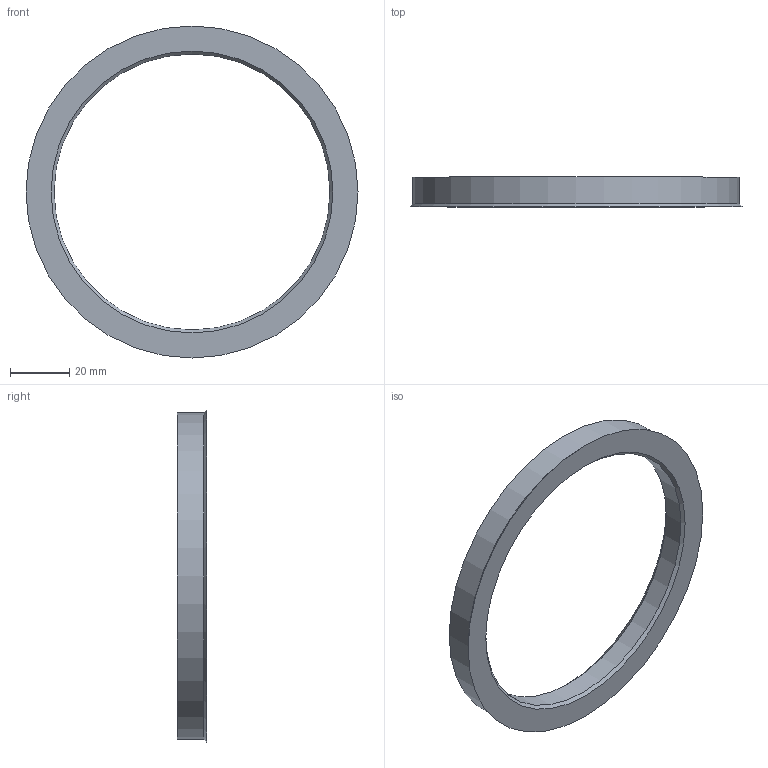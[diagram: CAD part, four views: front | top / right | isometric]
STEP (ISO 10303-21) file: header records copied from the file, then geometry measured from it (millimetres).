
FILE_DESCRIPTION(/* description */ (''),/* implementation_level */ '2;1');
FILE_NAME(/* name */ 'G:\CAD Library\Team Tasks\DIPP\11th Intake\Bradley Coles\Design Drafting\Random\Hub Rings\ipt\HubRing_110-93.1.stp',/* time_stamp */ '2025-07-22T13:40:53+08:00',/* author */ ('BCOLES'),/* organization */ (''),/* preprocessor_version */ 'ST-DEVELOPER v18.1',/* originating_system */ 'Autodesk Inventor 2022',/* authorisation */ '');
FILE_SCHEMA (('AUTOMOTIVE_DESIGN { 1 0 10303 214 3 1 1 }'));
Length unit declared in the file: millimetre
Products named in the file (1): HubRing_110-93.1
Bounding box: 112 x 10 x 112 mm (x, y, z)
Volume: 26391.1 mm3; surface area: 11761 mm2
Topology: 1 solids, 1 shells, 7 faces, 13 edges, 8 vertices
Faces by surface type: cone 3, cylinder 2, plane 2
Full cylindrical faces by diameter (mm): 93.1 x1, 110 x1
Entity records: 226 total; most frequent: DIRECTION 37, CARTESIAN_POINT 29, ORIENTED_EDGE 26, AXIS2_PLACEMENT_3D 16, EDGE_CURVE 13, EDGE_LOOP 9, CIRCLE 8, VERTEX_POINT 8
